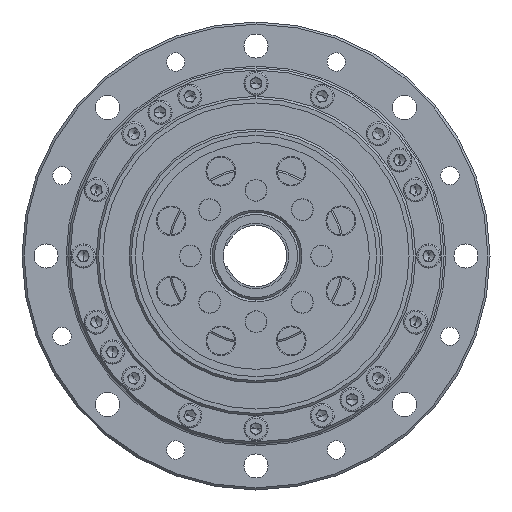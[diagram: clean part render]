
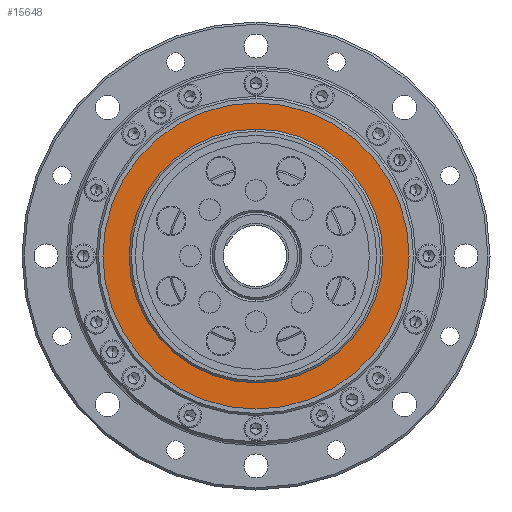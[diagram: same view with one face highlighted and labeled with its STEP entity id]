
A CAD part, left-side view. The second image highlights one B-rep face of the part: STEP entity #15648.
In plain terms, the highlighted planar face has unit normal (-1, 0, 0).
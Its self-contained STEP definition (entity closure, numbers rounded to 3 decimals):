
#568 = EDGE_CURVE ( 'NONE', #2554, #8291, #20982, .T. ) ;
#602 = CARTESIAN_POINT ( 'NONE',  ( 3.002, 0., 0. ) ) ;
#725 = PLANE ( 'NONE',  #18609 ) ;
#1403 = FACE_BOUND ( 'NONE', #3155, .T. ) ;
#2554 = VERTEX_POINT ( 'NONE', #14773 ) ;
#2624 = DIRECTION ( 'NONE',  ( 0., 0., 1. ) ) ;
#2709 = CIRCLE ( 'NONE', #16199, 35. ) ;
#3155 = EDGE_LOOP ( 'NONE', ( #7518, #21975 ) ) ;
#4020 = AXIS2_PLACEMENT_3D ( 'NONE', #602, #14622, #2624 ) ;
#4741 = CIRCLE ( 'NONE', #13257, 29. ) ;
#6007 = EDGE_CURVE ( 'NONE', #8291, #2554, #4741, .T. ) ;
#6276 = DIRECTION ( 'NONE',  ( -1., 0., 0. ) ) ;
#6774 = DIRECTION ( 'NONE',  ( 1., 0., 0. ) ) ;
#7464 = CARTESIAN_POINT ( 'NONE',  ( 3.002, 0., 0. ) ) ;
#7518 = ORIENTED_EDGE ( 'NONE', *, *, #6007, .F. ) ;
#8291 = VERTEX_POINT ( 'NONE', #9742 ) ;
#9026 = EDGE_CURVE ( 'NONE', #9407, #17366, #2709, .T. ) ;
#9213 = DIRECTION ( 'NONE',  ( -1., 0., 0. ) ) ;
#9407 = VERTEX_POINT ( 'NONE', #17526 ) ;
#9476 = DIRECTION ( 'NONE',  ( 0., 0., 1. ) ) ;
#9742 = CARTESIAN_POINT ( 'NONE',  ( 3.002, 0., 29. ) ) ;
#10341 = ORIENTED_EDGE ( 'NONE', *, *, #18484, .T. ) ;
#11435 = FACE_OUTER_BOUND ( 'NONE', #18346, .T. ) ;
#12258 = CARTESIAN_POINT ( 'NONE',  ( 3.002, 0., 35. ) ) ;
#12723 = CARTESIAN_POINT ( 'NONE',  ( 3.002, 35., 0. ) ) ;
#13257 = AXIS2_PLACEMENT_3D ( 'NONE', #7464, #21547, #9476 ) ;
#14622 = DIRECTION ( 'NONE',  ( -1., 0., 0. ) ) ;
#14773 = CARTESIAN_POINT ( 'NONE',  ( 3.002, 0., -29. ) ) ;
#15648 = ADVANCED_FACE ( 'NONE', ( #1403, #11435 ), #725, .F. ) ;
#16199 = AXIS2_PLACEMENT_3D ( 'NONE', #18324, #6276, #20325 ) ;
#17366 = VERTEX_POINT ( 'NONE', #12258 ) ;
#17526 = CARTESIAN_POINT ( 'NONE',  ( 3.002, 0., -35. ) ) ;
#18324 = CARTESIAN_POINT ( 'NONE',  ( 3.002, 0., 0. ) ) ;
#18346 = EDGE_LOOP ( 'NONE', ( #10341, #24075 ) ) ;
#18484 = EDGE_CURVE ( 'NONE', #17366, #9407, #19534, .T. ) ;
#18609 = AXIS2_PLACEMENT_3D ( 'NONE', #12723, #6774, #20840 ) ;
#19534 = CIRCLE ( 'NONE', #4020, 35. ) ;
#19666 = AXIS2_PLACEMENT_3D ( 'NONE', #21263, #9213, #23310 ) ;
#20325 = DIRECTION ( 'NONE',  ( 0., 0., 1. ) ) ;
#20840 = DIRECTION ( 'NONE',  ( 0., 0., -1. ) ) ;
#20982 = CIRCLE ( 'NONE', #19666, 29. ) ;
#21263 = CARTESIAN_POINT ( 'NONE',  ( 3.002, 0., 0. ) ) ;
#21547 = DIRECTION ( 'NONE',  ( -1., 0., 0. ) ) ;
#21975 = ORIENTED_EDGE ( 'NONE', *, *, #568, .F. ) ;
#23310 = DIRECTION ( 'NONE',  ( 0., 0., 1. ) ) ;
#24075 = ORIENTED_EDGE ( 'NONE', *, *, #9026, .T. ) ;
